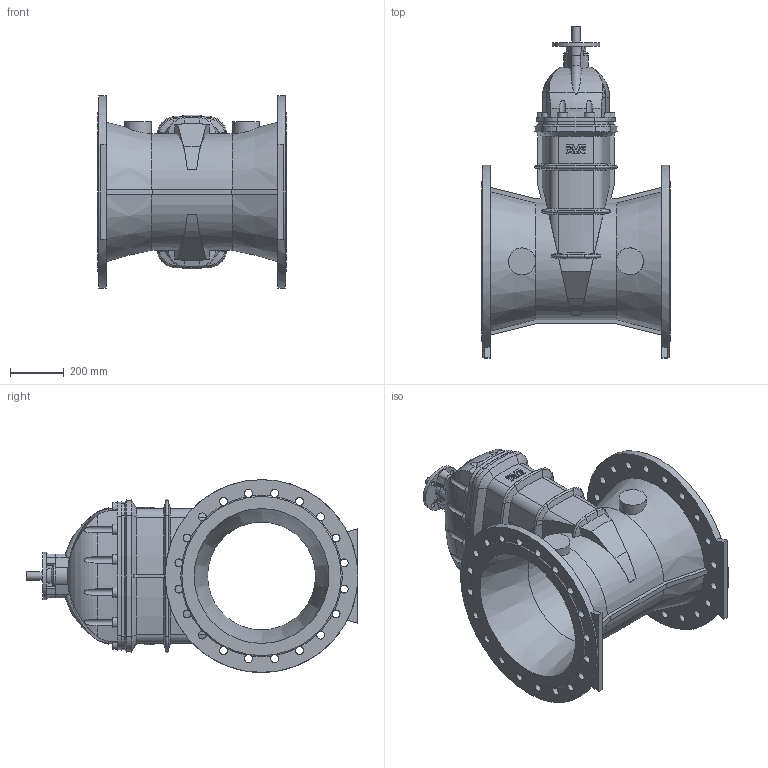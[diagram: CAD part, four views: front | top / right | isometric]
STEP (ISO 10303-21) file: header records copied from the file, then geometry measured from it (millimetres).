
FILE_DESCRIPTION (( 'STEP AP203' ), '1' );
FILE_NAME ('O_15_72_DN500_00_step.STEP', '2015-06-08T08:12:40', ( '' ), ( '' ), 'SwSTEP 2.0', 'SolidWorks 2012', '' );
FILE_SCHEMA (( 'CONFIG_CONTROL_DESIGN' ));
Length unit declared in the file: millimetre
Products named in the file (1): O_15_72_DN500_00_step
Bounding box: 700 x 1230.5 x 715 mm (x, y, z)
Volume: 90191821.7 mm3; surface area: 3963002.7 mm2
Topology: 1 solids, 1 shells, 463 faces, 1343 edges, 857 vertices
Faces by surface type: cylinder 173, plane 171, cone 73, torus 30, bspline 16
Full cylindrical faces by diameter (mm): 12 x4, 18 x4, 29.5 x40, 30 x1, 100 x2, 175 x1, 400 x1, 715 x2
Entity records: 18044 total; most frequent: CARTESIAN_POINT 6477, ORIENTED_EDGE 2458, DIRECTION 2334, EDGE_CURVE 1229, AXIS2_PLACEMENT_3D 939, VERTEX_POINT 803, EDGE_LOOP 596, FACE_OUTER_BOUND 518
